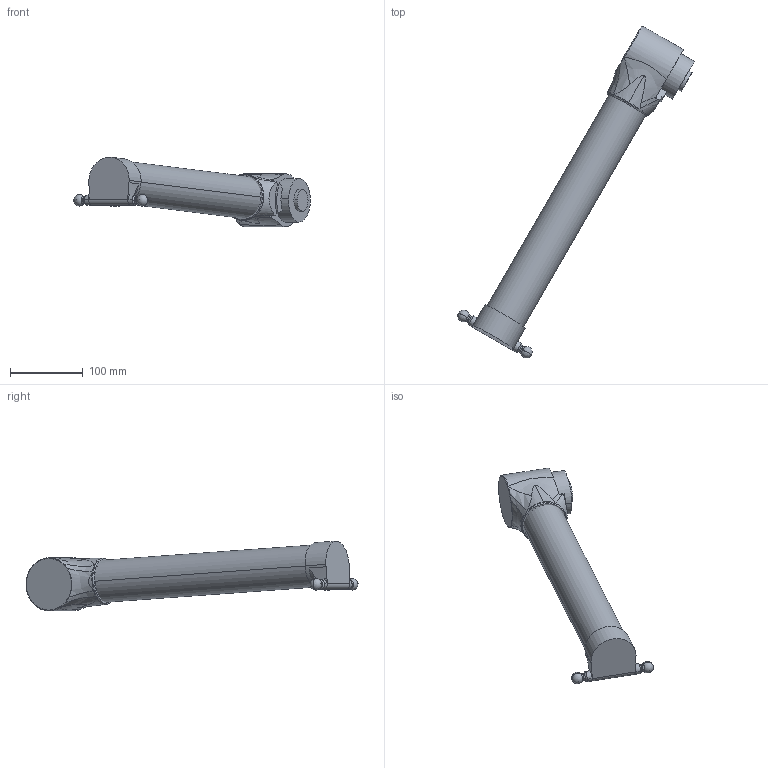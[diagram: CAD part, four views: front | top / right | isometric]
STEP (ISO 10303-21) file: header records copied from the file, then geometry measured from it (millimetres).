
FILE_DESCRIPTION (( 'STEP AP214' ), '1' );
FILE_NAME ('IRB360_X-1600-STD-4D_rev04_UA2_CAD.step', '2025-01-27T14:53:40', ( '' ), ( '' ), 'SwSTEP 2.0', 'SolidWorks 2022', '' );
FILE_SCHEMA (( 'AUTOMOTIVE_DESIGN' ));
Length unit declared in the file: millimetre
Products named in the file (1): IRB360_X-1600-STD-4D_rev04_UA2_CAD
Bounding box: 325.47 x 456.71 x 95.82 mm (x, y, z)
Volume: 1558472.1 mm3; surface area: 133315 mm2
Topology: 5 solids, 5 shells, 98 faces, 229 edges, 141 vertices
Faces by surface type: cylinder 21, plane 21, bspline 19, torus 17, cone 16, sphere 4
Entity records: 4477 total; most frequent: CARTESIAN_POINT 2118, DIRECTION 451, ORIENTED_EDGE 438, EDGE_CURVE 219, AXIS2_PLACEMENT_3D 201, VERTEX_POINT 135, CIRCLE 121, EDGE_LOOP 102
